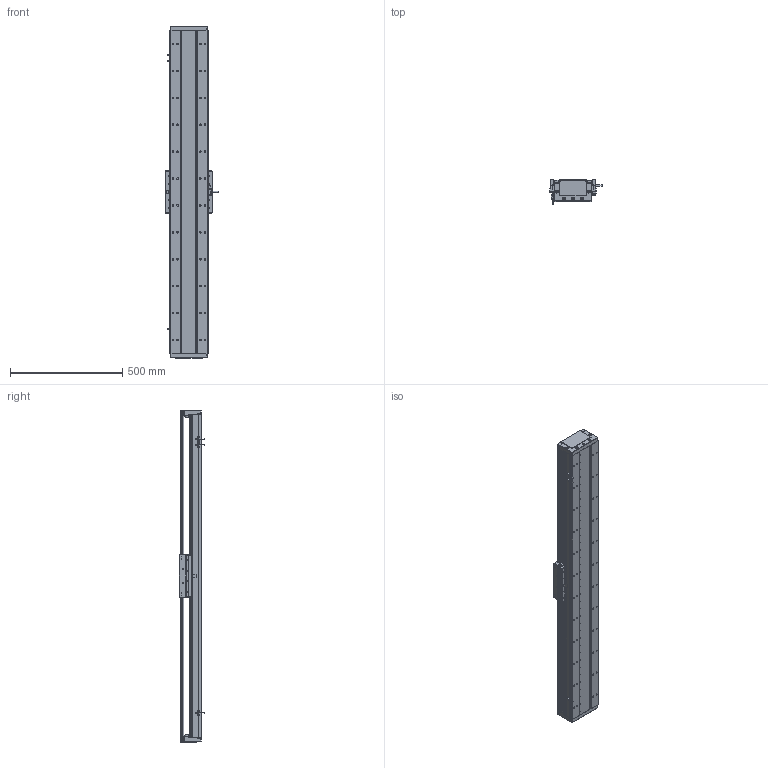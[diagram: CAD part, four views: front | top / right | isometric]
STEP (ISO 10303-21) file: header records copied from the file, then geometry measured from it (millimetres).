
FILE_DESCRIPTION (( 'STEP AP203' ), '1' );
FILE_NAME ('DA-C165-C2-T1200-C010-0.2 直线电机.STEP', '2023-05-11T07:34:55', ( '微软用户' ), ( '微软中国' ), 'SwSTEP 2.0', 'SolidWorks 2019', '' );
FILE_SCHEMA (( 'CONFIG_CONTROL_DESIGN' ));
Length unit declared in the file: millimetre
Products named in the file (15): 复件 DA165-DG-H-N-00 端盖^DA-C165-C2-T-C010-0.2-N 直线电机; 复件 CKM02-W075-C1C2-TP-3.0 一体电机-C2^DA-C165-C2-T-C010-0.2-N 直线电机; 葩璃 CKM01-W075-TRL^DA-C165-C2-T-C010-0.2-N 眻盄萇儂; 珨极趙賑雄怢啣wf-C2; 葩璃 PM-T45^DA-C165-C2-T-C010-0.2-N 眻盄萇儂; 复件 DMA-010-0.2 读数头^DA-C165-C2-T-C010-0.2-N 直线电机; 复件 六角薄螺母 M3^DA-C165-C2-T-C010-0.2-N 直线电机_GB_FASTENER_NUT_STNAB M3-C; 复件 DA165-GYP-00 光电感应片^DA-C165-C2-T-C010-0.2-N 直线电机; 复件 DA165-T-002-00 盖板^DA-C165-C2-T-C010-0.2-N 直线电机_0840-002-00; 复件 XD-U-02L 磁栅尺^DA-C165-C2-T-C010-0.2-N 直线电机_T; IU-CU165-L 菁釱絳寢; 复件 DA95-HXJ-00 缓冲橡胶^DA-C165-C2-T-C010-0.2-N 直线电机; 葩璃 DA95-GT-T-00^IU-CU165-L 菁釱絳寢_T; IU-CU165-L-00 菁釱_L1440; DA-C165-C2-T1200-C010-0.2 眻盄萇儂
Assembly tree (28 placements, depth 3):
  DA-C165-C2-T1200-C010-0.2 眻盄萇儂
    IU-CU165-L 菁釱絳寢
      IU-CU165-L-00 菁釱_L1440
      葩璃 DA95-GT-T-00^IU-CU165-L 菁釱絳寢_T  x4
    复件 DA165-DG-H-N-00 端盖^DA-C165-C2-T-C010-0.2-N 直线电机  x2
    复件 DA95-HXJ-00 缓冲橡胶^DA-C165-C2-T-C010-0.2-N 直线电机  x4
    复件 DA165-T-002-00 盖板^DA-C165-C2-T-C010-0.2-N 直线电机_0840-002-00
    复件 XD-U-02L 磁栅尺^DA-C165-C2-T-C010-0.2-N 直线电机_T
    葩璃 PM-T45^DA-C165-C2-T-C010-0.2-N 眻盄萇儂  x3
    葩璃 CKM01-W075-TRL^DA-C165-C2-T-C010-0.2-N 眻盄萇儂
    复件 DA165-GYP-00 光电感应片^DA-C165-C2-T-C010-0.2-N 直线电机
    复件 DMA-010-0.2 读数头^DA-C165-C2-T-C010-0.2-N 直线电机
    复件 CKM02-W075-C1C2-TP-3.0 一体电机-C2^DA-C165-C2-T-C010-0.2-N 直线电机
    复件 六角薄螺母 M3^DA-C165-C2-T-C010-0.2-N 直线电机_GB_FASTENER_NUT_STNAB M3-C  x6
    珨极趙賑雄怢啣wf-C2
Bounding box: 233 x 111.45 x 1480 mm (x, y, z)
Volume: 10072323.7 mm3; surface area: 2825351.1 mm2
Topology: 66 solids, 66 shells, 3280 faces, 9198 edges, 5809 vertices
Faces by surface type: cylinder 1743, plane 1073, cone 406, torus 54, sphere 4
Entity records: 102797 total; most frequent: CARTESIAN_POINT 25170, DIRECTION 15906, ORIENTED_EDGE 15870, EDGE_CURVE 7935, AXIS2_PLACEMENT_3D 6003, VERTEX_POINT 5145, VECTOR 3900, LINE 3900
